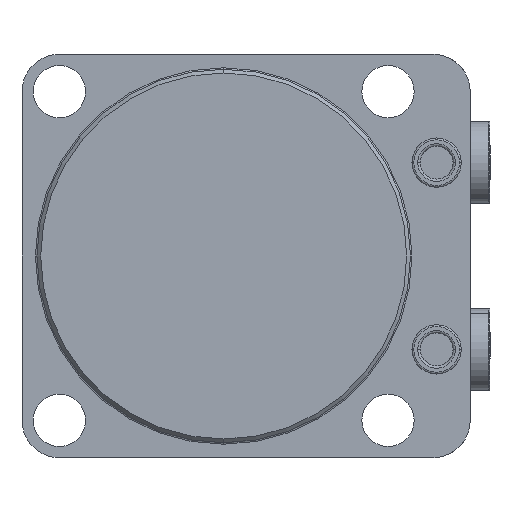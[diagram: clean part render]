
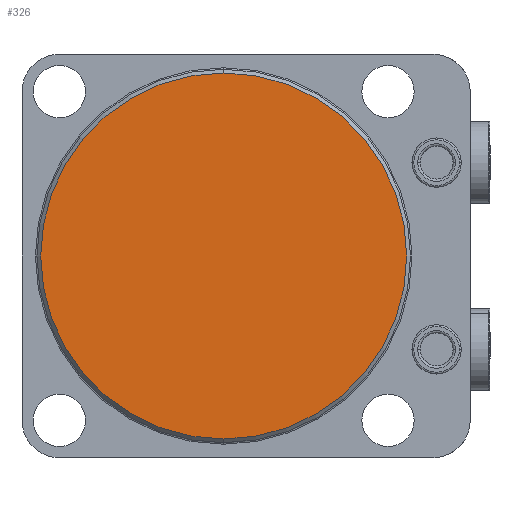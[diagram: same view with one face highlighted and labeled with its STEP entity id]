
A CAD part, front view. The second image highlights one B-rep face of the part: STEP entity #326.
In plain terms, the highlighted planar face has unit normal (0, -1, 0) as drawn and (0, 1, 0) by its records, which use the part's own axes.
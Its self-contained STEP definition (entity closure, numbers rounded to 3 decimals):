
#173=PLANE('',#2676);
#326=ADVANCED_FACE('',(#532),#173,.T.);
#532=FACE_OUTER_BOUND('',#677,.F.);
#677=EDGE_LOOP('',(#1223,#1224));
#875=CIRCLE('',#2640,49.);
#897=CIRCLE('',#2675,49.);
#1223=ORIENTED_EDGE('',*,*,#2083,.T.);
#1224=ORIENTED_EDGE('',*,*,#2022,.T.);
#1773=VERTEX_POINT('',#3956);
#1774=VERTEX_POINT('',#3957);
#2022=EDGE_CURVE('',#1773,#1774,#875,.T.);
#2083=EDGE_CURVE('',#1774,#1773,#897,.T.);
#2640=AXIS2_PLACEMENT_3D('',#3955,#3127,#3128);
#2675=AXIS2_PLACEMENT_3D('',#4085,#3231,#3232);
#2676=AXIS2_PLACEMENT_3D('',#4086,#3233,#3234);
#3127=DIRECTION('',(0.,-1.,0.));
#3128=DIRECTION('',(0.,0.,1.));
#3231=DIRECTION('',(0.,-1.,0.));
#3232=DIRECTION('',(0.,0.,1.));
#3233=DIRECTION('',(0.,1.,0.));
#3234=DIRECTION('',(0.,0.,1.));
#3955=CARTESIAN_POINT('',(0.,0.,0.));
#3956=CARTESIAN_POINT('',(0.,0.,-49.));
#3957=CARTESIAN_POINT('',(0.,0.,49.));
#4085=CARTESIAN_POINT('',(0.,0.,0.));
#4086=CARTESIAN_POINT('',(-54.,0.,54.));
